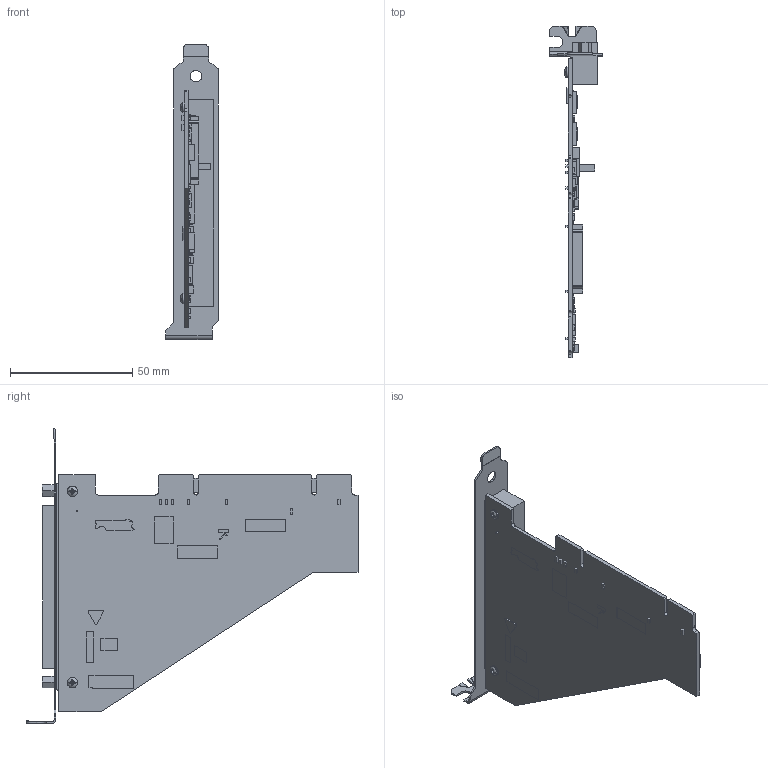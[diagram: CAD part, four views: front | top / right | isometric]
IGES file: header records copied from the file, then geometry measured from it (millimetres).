
Start section:  PTC IGES file: cu_pci-6509_sw0001.igs
Global section: file name: cu_pci-6509_sw0001.igs; native system: Pro/ENGINEER by Parametric Technology Corporation; preprocessor: 2006080; author: scarrasc; organization: Unknown; date: 071102.134008; units: inch
Bounding box: 21.59 x 135.73 x 120.78 mm (x, y, z)
Surface area: 26959.7 mm2 (no closed solid volume)
Topology: 0 solids, 0 shells, 1390 faces, 7044 edges, 7040 vertices
Faces by surface type: bspline 1324, revolution 66
